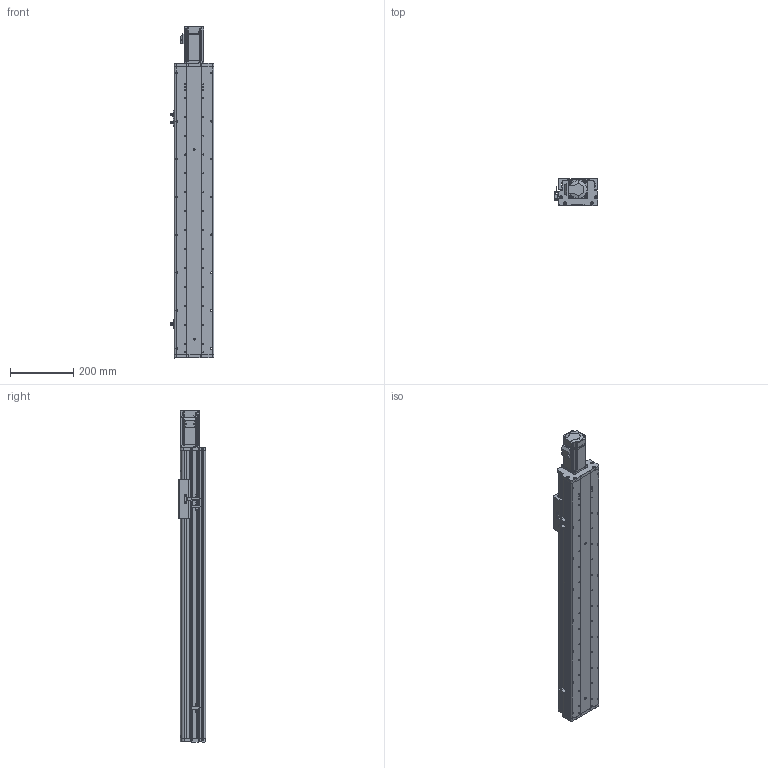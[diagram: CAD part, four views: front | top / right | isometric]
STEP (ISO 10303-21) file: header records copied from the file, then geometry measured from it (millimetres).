
FILE_DESCRIPTION (( 'STEP AP214' ), '1' );
FILE_NAME ('KSD125S-S650-MN-CM.STEP', '2017-08-07T06:15:20', ( '微软用户' ), ( '微软中国' ), 'SwSTEP 2.0', 'SolidWorks 2014', '' );
FILE_SCHEMA (( 'AUTOMOTIVE_DESIGN' ));
Length unit declared in the file: millimetre
Products named in the file (12): U倰嫖萇EEㄜSX672; KSD125-賑雄釱1; CS-34X32-10X14; 125-帣傷啣1; KSD125S-S650-MN-CM; KSD125S-650行程丝杆防尘盖-直连不带电机座; KSD125S-650行程丝杆底板-直连不带电机座; 125宽模组 - 直连不带电机座电机安装板; MHMD042G1CA_2_03; 拸萇儂釱滅袉菜; 覜茼え68遵圉猾敕; U倰嫖萇假蚾璃
Assembly tree (15 placements, depth 2):
  KSD125S-S650-MN-CM
    125-帣傷啣1
    CS-34X32-10X14
    KSD125-賑雄釱1
    U倰嫖萇EEㄜSX672  x3
    U倰嫖萇假蚾璃  x3
    覜茼え68遵圉猾敕
    拸萇儂釱滅袉菜
    MHMD042G1CA_2_03
    125宽模组 - 直连不带电机座电机安装板
    KSD125S-650行程丝杆底板-直连不带电机座
    KSD125S-650行程丝杆防尘盖-直连不带电机座
Bounding box: 138.7 x 86 x 1051.5 mm (x, y, z)
Volume: 3053165.7 mm3; surface area: 1004820.3 mm2
Topology: 14 solids, 17 shells, 1468 faces, 4251 edges, 2797 vertices
Faces by surface type: cylinder 736, plane 619, cone 91, bspline 22
Entity records: 51792 total; most frequent: CARTESIAN_POINT 11046, DIRECTION 7339, ORIENTED_EDGE 7010, EDGE_CURVE 3583, AXIS2_PLACEMENT_3D 2696, VERTEX_POINT 2389, VECTOR 1947, LINE 1947
